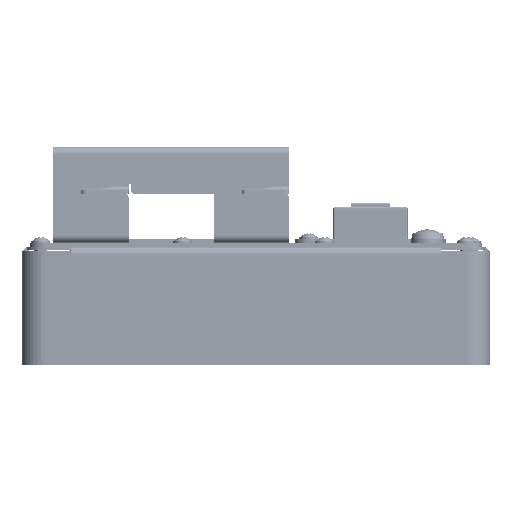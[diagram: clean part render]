
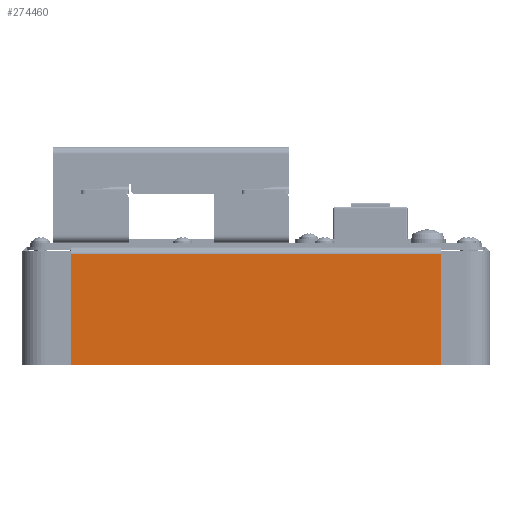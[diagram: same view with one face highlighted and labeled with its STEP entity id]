
A CAD part, left-side view. The second image highlights one B-rep face of the part: STEP entity #274460.
In plain terms, the highlighted planar face has unit normal (-1, 0, 0).
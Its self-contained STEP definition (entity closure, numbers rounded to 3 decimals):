
#6261 = CARTESIAN_POINT ( 'NONE',  ( -199.5, 0., 0. ) ) ;
#30584 = CARTESIAN_POINT ( 'NONE',  ( -199.5, -97.8, -63. ) ) ;
#31965 = DIRECTION ( 'NONE',  ( 0., 0., -1. ) ) ;
#37801 = CARTESIAN_POINT ( 'NONE',  ( -199.5, 97.8, -63. ) ) ;
#38176 = EDGE_CURVE ( 'NONE', #68061, #126730, #187794, .T. ) ;
#46663 = DIRECTION ( 'NONE',  ( 0., 0., 1. ) ) ;
#46807 = EDGE_CURVE ( 'NONE', #183969, #126730, #67795, .T. ) ;
#48542 = DIRECTION ( 'NONE',  ( -1., 0., 0. ) ) ;
#53710 = CARTESIAN_POINT ( 'NONE',  ( -199.5, 97.8, -4. ) ) ;
#64539 = EDGE_CURVE ( 'NONE', #248229, #183969, #225410, .T. ) ;
#67795 = LINE ( 'NONE', #153756, #151286 ) ;
#68061 = VERTEX_POINT ( 'NONE', #85821 ) ;
#68387 = VECTOR ( 'NONE', #271810, 1000. ) ;
#69981 = ORIENTED_EDGE ( 'NONE', *, *, #227730, .F. ) ;
#75191 = PLANE ( 'NONE',  #160059 ) ;
#77929 = CARTESIAN_POINT ( 'NONE',  ( -199.5, 0., -4. ) ) ;
#85821 = CARTESIAN_POINT ( 'NONE',  ( -199.5, -97.8, -4. ) ) ;
#92123 = DIRECTION ( 'NONE',  ( 0., 0., 1. ) ) ;
#95762 = CARTESIAN_POINT ( 'NONE',  ( -199.5, 97.8, -63. ) ) ;
#107523 = ORIENTED_EDGE ( 'NONE', *, *, #46807, .F. ) ;
#126730 = VERTEX_POINT ( 'NONE', #53710 ) ;
#151286 = VECTOR ( 'NONE', #46663, 1000. ) ;
#153756 = CARTESIAN_POINT ( 'NONE',  ( -199.5, 97.8, -2. ) ) ;
#158779 = LINE ( 'NONE', #30584, #160141 ) ;
#160059 = AXIS2_PLACEMENT_3D ( 'NONE', #6261, #48542, #92123 ) ;
#160141 = VECTOR ( 'NONE', #31965, 1000. ) ;
#162505 = DIRECTION ( 'NONE',  ( 0., 1., 0. ) ) ;
#183969 = VERTEX_POINT ( 'NONE', #37801 ) ;
#186772 = ORIENTED_EDGE ( 'NONE', *, *, #64539, .F. ) ;
#187794 = LINE ( 'NONE', #77929, #201272 ) ;
#201272 = VECTOR ( 'NONE', #162505, 1000. ) ;
#205954 = EDGE_LOOP ( 'NONE', ( #69981, #246182, #107523, #186772 ) ) ;
#224560 = FACE_OUTER_BOUND ( 'NONE', #205954, .T. ) ;
#225410 = LINE ( 'NONE', #95762, #68387 ) ;
#227730 = EDGE_CURVE ( 'NONE', #68061, #248229, #158779, .T. ) ;
#246182 = ORIENTED_EDGE ( 'NONE', *, *, #38176, .T. ) ;
#248229 = VERTEX_POINT ( 'NONE', #268978 ) ;
#268978 = CARTESIAN_POINT ( 'NONE',  ( -199.5, -97.8, -63. ) ) ;
#271810 = DIRECTION ( 'NONE',  ( 0., 1., 0. ) ) ;
#274460 = ADVANCED_FACE ( 'NONE', ( #224560 ), #75191, .T. ) ;
